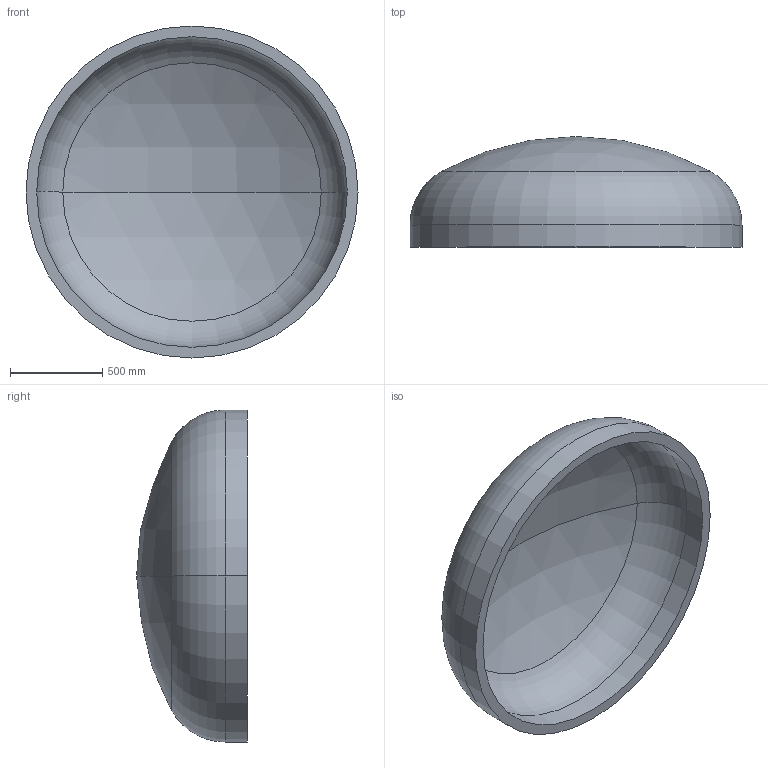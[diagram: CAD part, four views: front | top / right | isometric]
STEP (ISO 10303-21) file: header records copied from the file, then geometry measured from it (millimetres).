
FILE_DESCRIPTION (( 'STEP AP203' ), '1' );
FILE_NAME ('DIN 28013 Korbbogenform_-_Boden DIN 28013 - 1800 x 120 - I - s=58.step', '2016-07-01T12:35:37', ( '' ), ( '' ), 'SwSTEP 2.0', 'SolidWorks 2013', '' );
FILE_SCHEMA (( 'CONFIG_CONTROL_DESIGN' ));
Length unit declared in the file: millimetre
Products named in the file (1): DIN 28013 Korbbogenform_-_Boden DIN 28013 - 1800 x 120 - I - s=58
Bounding box: 1800 x 600.29 x 1800 mm (x, y, z)
Volume: 233778150.5 mm3; surface area: 8385772.7 mm2
Topology: 1 solids, 1 shells, 13 faces, 24 edges, 14 vertices
Faces by surface type: torus 4, cylinder 4, sphere 4, plane 1
Entity records: 407 total; most frequent: DIRECTION 72, CARTESIAN_POINT 52, ORIENTED_EDGE 48, AXIS2_PLACEMENT_3D 34, EDGE_CURVE 24, CIRCLE 20, VERTEX_POINT 14, EDGE_LOOP 14
